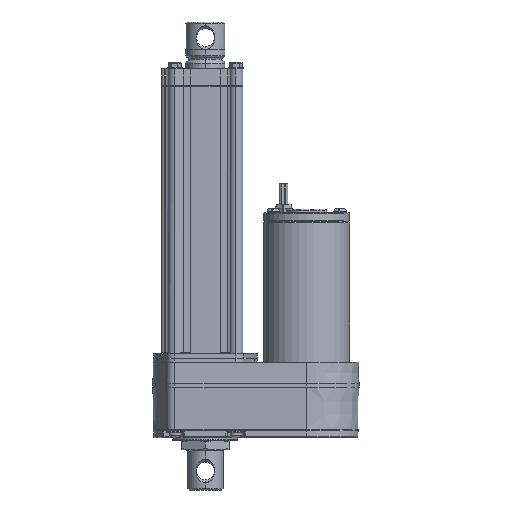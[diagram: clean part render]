
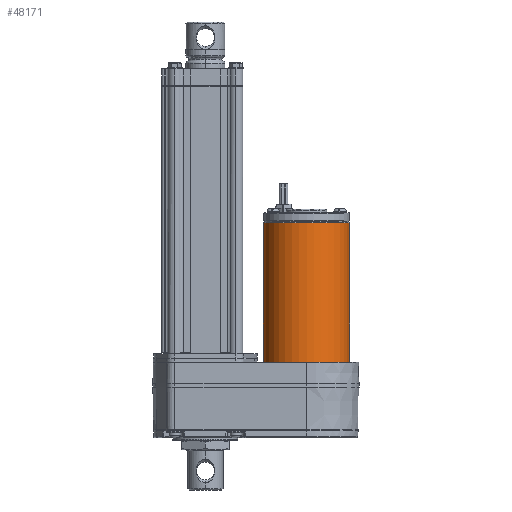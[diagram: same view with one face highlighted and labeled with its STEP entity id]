
A CAD part, left-side view. The second image highlights one B-rep face of the part: STEP entity #48171.
In plain terms, the highlighted cylindrical face has radius 31.75 mm (diameter 63.5 mm), a partial arc.
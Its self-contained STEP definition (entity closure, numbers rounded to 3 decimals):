
#904 = DIRECTION ( 'NONE',  ( 0., 0., 1. ) ) ;
#1245 = CYLINDRICAL_SURFACE ( 'NONE', #19949, 31.75 ) ;
#1315 = AXIS2_PLACEMENT_3D ( 'NONE', #51012, #904, #18977 ) ;
#2566 = ORIENTED_EDGE ( 'NONE', *, *, #5093, .T. ) ;
#5093 = EDGE_CURVE ( 'NONE', #35079, #18472, #9945, .T. ) ;
#5203 = VERTEX_POINT ( 'NONE', #37214 ) ;
#6725 = ORIENTED_EDGE ( 'NONE', *, *, #36127, .F. ) ;
#7114 = LINE ( 'NONE', #25487, #11528 ) ;
#8887 = CIRCLE ( 'NONE', #42014, 31.75 ) ;
#9945 = LINE ( 'NONE', #22406, #24384 ) ;
#10429 = CARTESIAN_POINT ( 'NONE',  ( -143.865, -33.085, 188.255 ) ) ;
#11528 = VECTOR ( 'NONE', #29355, 1000. ) ;
#14401 = CARTESIAN_POINT ( 'NONE',  ( -143.865, -33.085, 78.355 ) ) ;
#16640 = CARTESIAN_POINT ( 'NONE',  ( -138.351, -1.817, 78.355 ) ) ;
#17410 = CIRCLE ( 'NONE', #1315, 31.75 ) ;
#18472 = VERTEX_POINT ( 'NONE', #30293 ) ;
#18565 = DIRECTION ( 'NONE',  ( 0., 0., 1. ) ) ;
#18977 = DIRECTION ( 'NONE',  ( -0.174, -0.985, 0. ) ) ;
#19949 = AXIS2_PLACEMENT_3D ( 'NONE', #10429, #41853, #24057 ) ;
#22406 = CARTESIAN_POINT ( 'NONE',  ( -149.378, -64.353, 188.255 ) ) ;
#23285 = DIRECTION ( 'NONE',  ( 0., 0., 1. ) ) ;
#24057 = DIRECTION ( 'NONE',  ( -0.174, -0.985, 0. ) ) ;
#24384 = VECTOR ( 'NONE', #23285, 1000. ) ;
#24640 = EDGE_CURVE ( 'NONE', #36913, #35079, #8887, .T. ) ;
#25380 = EDGE_LOOP ( 'NONE', ( #54900, #52497, #2566, #6725 ) ) ;
#25487 = CARTESIAN_POINT ( 'NONE',  ( -138.351, -1.817, 188.255 ) ) ;
#29355 = DIRECTION ( 'NONE',  ( 0., 0., 1. ) ) ;
#30293 = CARTESIAN_POINT ( 'NONE',  ( -149.378, -64.353, 180.755 ) ) ;
#35079 = VERTEX_POINT ( 'NONE', #52022 ) ;
#36127 = EDGE_CURVE ( 'NONE', #5203, #18472, #17410, .T. ) ;
#36913 = VERTEX_POINT ( 'NONE', #16640 ) ;
#37214 = CARTESIAN_POINT ( 'NONE',  ( -138.351, -1.817, 180.755 ) ) ;
#41853 = DIRECTION ( 'NONE',  ( 0., 0., 1. ) ) ;
#42014 = AXIS2_PLACEMENT_3D ( 'NONE', #14401, #18565, #58323 ) ;
#43015 = FACE_OUTER_BOUND ( 'NONE', #25380, .T. ) ;
#48171 = ADVANCED_FACE ( 'NONE', ( #43015 ), #1245, .T. ) ;
#51012 = CARTESIAN_POINT ( 'NONE',  ( -143.865, -33.085, 180.755 ) ) ;
#51266 = EDGE_CURVE ( 'NONE', #36913, #5203, #7114, .T. ) ;
#52022 = CARTESIAN_POINT ( 'NONE',  ( -149.378, -64.353, 78.355 ) ) ;
#52497 = ORIENTED_EDGE ( 'NONE', *, *, #24640, .T. ) ;
#54900 = ORIENTED_EDGE ( 'NONE', *, *, #51266, .F. ) ;
#58323 = DIRECTION ( 'NONE',  ( 1., 0., 0. ) ) ;
